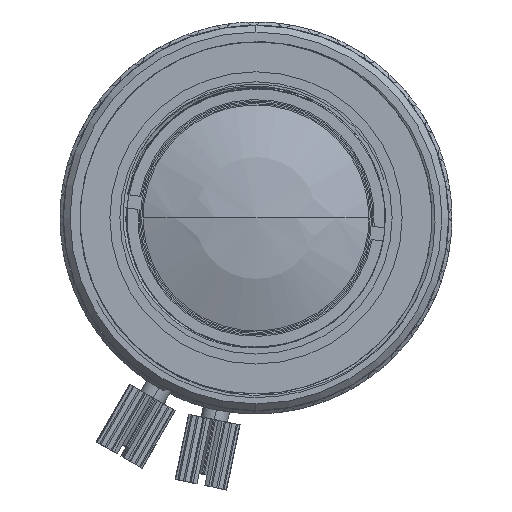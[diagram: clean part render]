
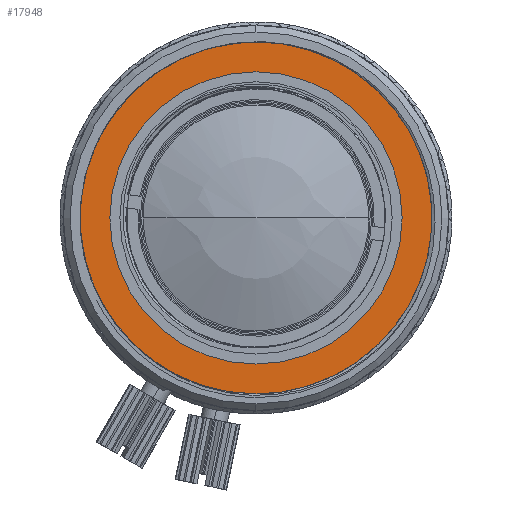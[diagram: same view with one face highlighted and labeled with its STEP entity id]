
A CAD part, left-side view. The second image highlights one B-rep face of the part: STEP entity #17948.
In plain terms, the highlighted planar face has unit normal (-1, 0, 0).
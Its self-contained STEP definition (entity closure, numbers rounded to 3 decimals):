
#334 = PLANE ( 'NONE',  #6172 ) ;
#1681 = AXIS2_PLACEMENT_3D ( 'NONE', #54357, #72492, #54747 ) ;
#2149 = EDGE_CURVE ( 'NONE', #21547, #55765, #16643, .T. ) ;
#2209 = DIRECTION ( 'NONE',  ( 1., 0., 0. ) ) ;
#2512 = EDGE_LOOP ( 'NONE', ( #28284, #77228 ) ) ;
#5210 = DIRECTION ( 'NONE',  ( 1., 0., 0. ) ) ;
#6172 = AXIS2_PLACEMENT_3D ( 'NONE', #55432, #11221, #67106 ) ;
#9584 = AXIS2_PLACEMENT_3D ( 'NONE', #37269, #43296, #67856 ) ;
#11221 = DIRECTION ( 'NONE',  ( 1., 0., 0. ) ) ;
#15194 = CARTESIAN_POINT ( 'NONE',  ( -35.897, 0., -13.7 ) ) ;
#16643 = CIRCLE ( 'NONE', #74446, 13.7 ) ;
#17114 = CIRCLE ( 'NONE', #1681, 13.7 ) ;
#17948 = ADVANCED_FACE ( 'NONE', ( #47800, #23651 ), #334, .F. ) ;
#18108 = CIRCLE ( 'NONE', #77279, 11. ) ;
#21547 = VERTEX_POINT ( 'NONE', #15194 ) ;
#23651 = FACE_BOUND ( 'NONE', #67706, .T. ) ;
#26725 = ORIENTED_EDGE ( 'NONE', *, *, #34169, .T. ) ;
#27153 = CARTESIAN_POINT ( 'NONE',  ( -35.897, 0., 13.7 ) ) ;
#28284 = ORIENTED_EDGE ( 'NONE', *, *, #2149, .F. ) ;
#29694 = DIRECTION ( 'NONE',  ( 0., 0., -1. ) ) ;
#34169 = EDGE_CURVE ( 'NONE', #56091, #63109, #18108, .T. ) ;
#37269 = CARTESIAN_POINT ( 'NONE',  ( -35.897, 0., 0. ) ) ;
#43296 = DIRECTION ( 'NONE',  ( 1., 0., 0. ) ) ;
#46280 = CARTESIAN_POINT ( 'NONE',  ( -35.897, 0., -11. ) ) ;
#47800 = FACE_OUTER_BOUND ( 'NONE', #2512, .T. ) ;
#47824 = CARTESIAN_POINT ( 'NONE',  ( -35.897, 0., 0. ) ) ;
#48296 = CARTESIAN_POINT ( 'NONE',  ( -35.897, 0., 11. ) ) ;
#50068 = EDGE_CURVE ( 'NONE', #55765, #21547, #17114, .T. ) ;
#53571 = CARTESIAN_POINT ( 'NONE',  ( -35.897, 0., 0. ) ) ;
#54357 = CARTESIAN_POINT ( 'NONE',  ( -35.897, 0., 0. ) ) ;
#54747 = DIRECTION ( 'NONE',  ( 0., 0., -1. ) ) ;
#55152 = ORIENTED_EDGE ( 'NONE', *, *, #62198, .T. ) ;
#55432 = CARTESIAN_POINT ( 'NONE',  ( -35.897, 0., 0. ) ) ;
#55765 = VERTEX_POINT ( 'NONE', #27153 ) ;
#56091 = VERTEX_POINT ( 'NONE', #46280 ) ;
#57307 = DIRECTION ( 'NONE',  ( 0., 0., -1. ) ) ;
#62198 = EDGE_CURVE ( 'NONE', #63109, #56091, #78963, .T. ) ;
#63109 = VERTEX_POINT ( 'NONE', #48296 ) ;
#67106 = DIRECTION ( 'NONE',  ( 0., 1., 0. ) ) ;
#67706 = EDGE_LOOP ( 'NONE', ( #26725, #55152 ) ) ;
#67856 = DIRECTION ( 'NONE',  ( 0., 0., -1. ) ) ;
#72492 = DIRECTION ( 'NONE',  ( 1., 0., 0. ) ) ;
#74446 = AXIS2_PLACEMENT_3D ( 'NONE', #47824, #5210, #29694 ) ;
#77228 = ORIENTED_EDGE ( 'NONE', *, *, #50068, .F. ) ;
#77279 = AXIS2_PLACEMENT_3D ( 'NONE', #53571, #2209, #57307 ) ;
#78963 = CIRCLE ( 'NONE', #9584, 11. ) ;
